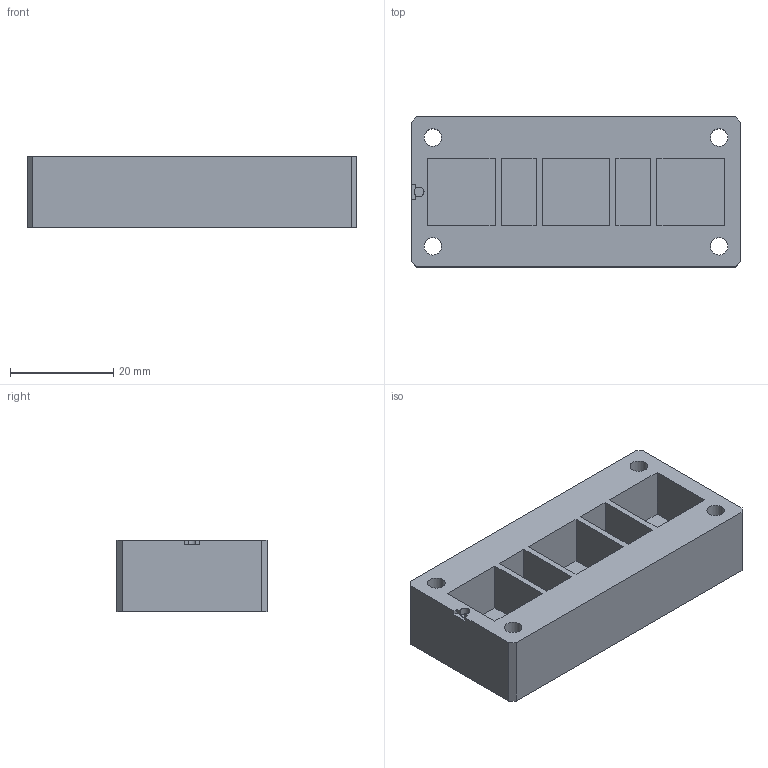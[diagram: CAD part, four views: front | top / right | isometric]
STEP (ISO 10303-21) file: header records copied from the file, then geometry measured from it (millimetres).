
FILE_DESCRIPTION(('Open CASCADE Model'),'2;1');
FILE_NAME('Open CASCADE Shape Model','2026-10-01T18:32:20',('Author'),( 'Open CASCADE'),'Open CASCADE STEP processor 8.0','build123d', 'Unknown');
FILE_SCHEMA(('AUTOMOTIVE_DESIGN { 1 0 10303 214 1 1 1 1 }'));
Length unit declared in the file: millimetre
Products named in the file (1): COMPOUND
Bounding box: 63.85 x 29.05 x 13.85 mm (x, y, z)
Volume: 17597.6 mm3; surface area: 9451.5 mm2
Topology: 1 solids, 1 shells, 74 faces, 189 edges, 126 vertices
Faces by surface type: plane 69, cylinder 5
Full cylindrical faces by diameter (mm): 1.9 x1, 3.4 x4
Entity records: 4630 total; most frequent: CARTESIAN_POINT 826, DIRECTION 671, LINE 485, VECTOR 485, ORIENTED_EDGE 378, PCURVE 378, DEFINITIONAL_REPRESENTATION 378, EDGE_CURVE 189
